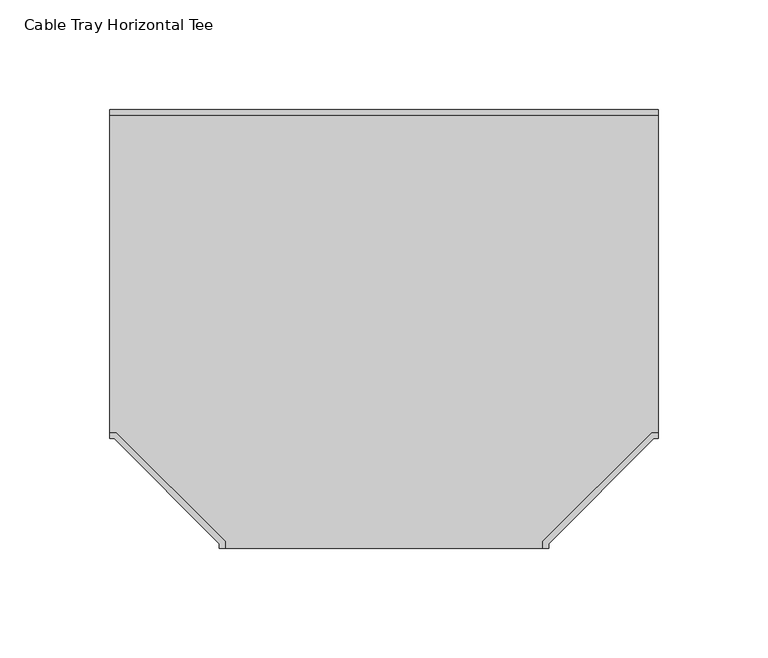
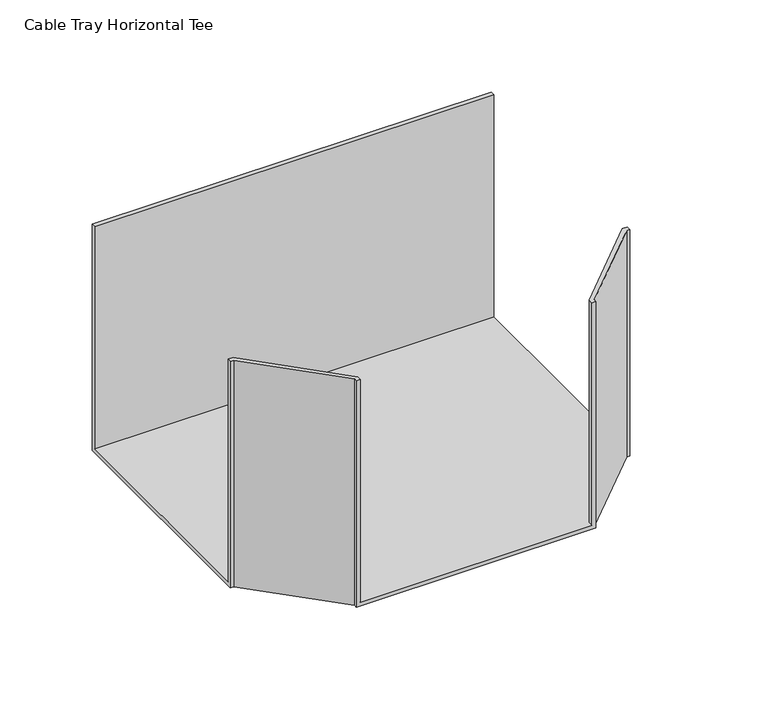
"""IFC4 building model written with IfcOpenShell, lengths in millimetres: cable carrier fitting geometry, Cable Tray Horizontal Tee : ELEC_ELV_TKG_N2402."""

from ifc_helpers import new_model, si_unit, origin, place, context, project, spatial, faceted_brep, source, transform, mapped, element, save


def cable_tray_horizontal_tee_d71a0caa(model_context):
    return source(origin(), model_context, "Body", "Brep", [
        faceted_brep([(-72.46, -125.0, -72.46), (72.46, -125.0, -72.46), (72.46, -121.9478976, -72.46), (121.9478976, -72.46, -72.46), (125.0, -72.46, -72.46), (125.0, 72.46, -72.46), (-125.0, 72.46, -72.46), (-125.0, -72.46, -72.46), (-121.9478976, -72.46, -72.46), (-72.46, -121.9478976, -72.46), (-75.0, -123.0, -75.0), (-123.0, -75.0, -75.0), (-125.0, -75.0, -75.0), (-125.0, 75.0, -75.0), (125.0, 75.0, -75.0), (125.0, -75.0, -75.0), (123.0, -75.0, -75.0), (75.0, -123.0, -75.0), (75.0, -125.0, -75.0), (-75.0, -125.0, -75.0), (-75.0, -125.0, 75.0), (-75.0, -123.0, 75.0), (75.0, -125.0, 75.0), (72.46, -125.0, 75.0), (-72.46, -125.0, 75.0), (75.0, -123.0, 75.0), (123.0, -75.0, 75.0), (125.0, -75.0, 75.0), (125.0, 75.0, 75.0), (125.0, 72.46, 75.0), (125.0, -72.46, 75.0), (-125.0, 75.0, 75.0), (-125.0, -75.0, 75.0), (-125.0, -72.46, 75.0), (-125.0, 72.46, 75.0), (-123.0, -75.0, 75.0), (-72.46, -121.9478976, 75.0), (-121.9478976, -72.46, 75.0), (72.46, -121.9478976, 75.0), (121.9478976, -72.46, 75.0)], [[[0, 1, 2, 3, 4, 5, 6, 7, 8, 9]], [[10, 11, 12, 13, 14, 15, 16, 17, 18, 19]], [[10, 19, 20, 21]], [[20, 19, 18, 22, 23, 1, 0, 24]], [[22, 18, 17, 25]], [[25, 17, 16, 26]], [[26, 16, 15, 27]], [[27, 15, 14, 28, 29, 5, 4, 30]], [[28, 14, 13, 31]], [[31, 13, 12, 32, 33, 7, 6, 34]], [[32, 12, 11, 35]], [[35, 11, 10, 21]], [[28, 31, 34, 29]], [[36, 37, 33, 32, 35, 21, 20, 24]], [[38, 23, 22, 25, 26, 27, 30, 39]], [[37, 36, 9, 8]], [[33, 37, 8, 7]], [[36, 24, 0, 9]], [[39, 30, 4, 3]], [[38, 39, 3, 2]], [[23, 38, 2, 1]], [[29, 34, 6, 5]]]),
    ])


if __name__ == "__main__":
    model = new_model("IFC4")
    model_context = context("Model", 3, world=origin())
    ifc_project = project(units=[si_unit("LENGTHUNIT", "METRE", prefix="MILLI")], contexts=[model_context])
    site = spatial("IfcSite", under=ifc_project)
    building = spatial("IfcBuilding", under=site)
    placement = place(None, origin())
    cable_tray_horizontal_tee_shape = cable_tray_horizontal_tee_d71a0caa(model_context)
    element("IfcCableCarrierFitting", 1, ObjectType="Cable Tray Horizontal Tee : ELEC_ELV_TKG_N2402", at=placement, inside=building, context=model_context, shape_type="MappedRepresentation", body=[
        mapped(cable_tray_horizontal_tee_shape, transform((0.0, 0.0, 0.0), x_axis=(1.0, 0.0, 0.0), y_axis=(0.0, 1.0, 0.0), z_axis=(0.0, 0.0, 1.0))),
    ])
    save(model, "model.ifc")
